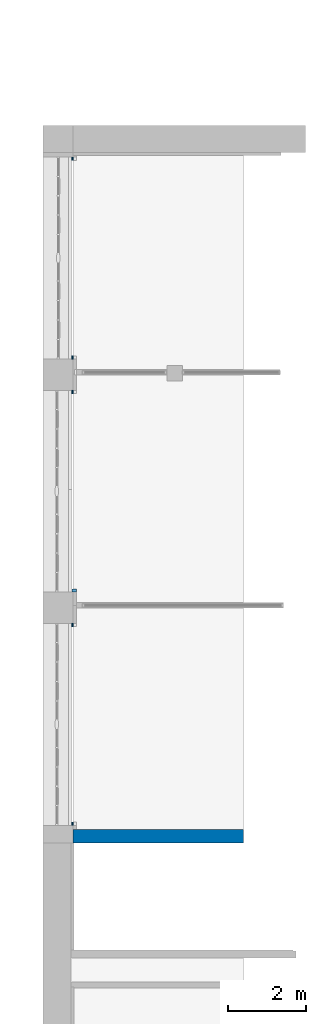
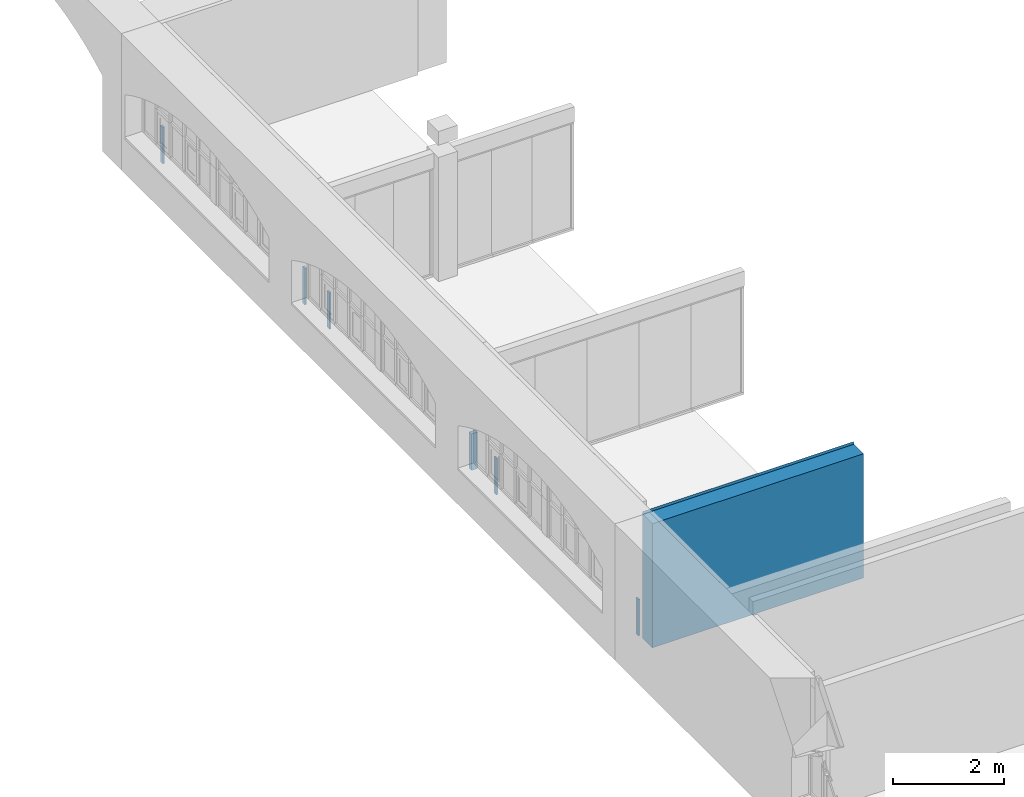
# One storey, part 31 of 32: 7 walls.
"""IFC2X3 building model written with IfcOpenShell, lengths in millimetres."""

from ifc_helpers import new_model, entity, si_unit, converted_unit, derived_unit, direction, frame, frame_2d, origin, place, context, subcontext, project, spatial, rectangle, extrude, faceted_brep, material, layer, layer_set, layer_usage, type_object, element, save


model = new_model("IFC2X3")

# Units and contexts
model_context = context("Model", 3, precision=0.01, world=origin(), true_north=direction((6.123031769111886e-17, 1.0)))
body_context = subcontext(model_context, "Body", "Model", "MODEL_VIEW")
ifc_project = project(units=[si_unit("LENGTHUNIT", "METRE", prefix="MILLI"), si_unit("AREAUNIT", "SQUARE_METRE"), si_unit("VOLUMEUNIT", "CUBIC_METRE"), converted_unit("PLANEANGLEUNIT", "DEGREE", entity("IfcPlaneAngleMeasure", 0.017453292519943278), si_unit("PLANEANGLEUNIT", "RADIAN"), dimensions=[0, 0, 0, 0, 0, 0, 0]), si_unit("MASSUNIT", "GRAM", prefix="KILO"), derived_unit("MASSDENSITYUNIT", [(si_unit("MASSUNIT", "GRAM", prefix="KILO"), 1), (si_unit("LENGTHUNIT", "METRE"), -3)]), derived_unit("IONCONCENTRATIONUNIT", [(si_unit("MASSUNIT", "GRAM", prefix="KILO"), 1), (si_unit("LENGTHUNIT", "METRE"), -3)]), derived_unit("MOMENTOFINERTIAUNIT", [(si_unit("LENGTHUNIT", "METRE"), 4)]), si_unit("TIMEUNIT", "SECOND"), si_unit("FREQUENCYUNIT", "HERTZ"), si_unit("THERMODYNAMICTEMPERATUREUNIT", "DEGREE_CELSIUS"), derived_unit("THERMALTRANSMITTANCEUNIT", [(si_unit("MASSUNIT", "GRAM", prefix="KILO"), 1), (si_unit("THERMODYNAMICTEMPERATUREUNIT", "KELVIN"), -1), (si_unit("TIMEUNIT", "SECOND"), -3)]), derived_unit("THERMALCONDUCTANCEUNIT", [(si_unit("MASSUNIT", "GRAM", prefix="KILO"), 1), (si_unit("THERMODYNAMICTEMPERATUREUNIT", "KELVIN"), -1), (si_unit("TIMEUNIT", "SECOND"), -3), (si_unit("LENGTHUNIT", "METRE"), 1)]), derived_unit("VOLUMETRICFLOWRATEUNIT", [(si_unit("LENGTHUNIT", "METRE", prefix="DECI"), 3), (si_unit("TIMEUNIT", "SECOND"), -1)]), derived_unit("MASSFLOWRATEUNIT", [(si_unit("MASSUNIT", "GRAM", prefix="KILO"), 1), (si_unit("TIMEUNIT", "SECOND"), -1)]), derived_unit("ROTATIONALFREQUENCYUNIT", [(si_unit("TIMEUNIT", "SECOND"), -1)]), si_unit("ELECTRICCURRENTUNIT", "AMPERE"), si_unit("ELECTRICVOLTAGEUNIT", "VOLT"), si_unit("POWERUNIT", "WATT"), si_unit("FORCEUNIT", "NEWTON", prefix="KILO"), si_unit("ILLUMINANCEUNIT", "LUX"), si_unit("LUMINOUSFLUXUNIT", "LUMEN"), si_unit("LUMINOUSINTENSITYUNIT", "CANDELA"), si_unit("ENERGYUNIT", "JOULE"), derived_unit("USERDEFINED", [(si_unit("MASSUNIT", "GRAM", prefix="KILO"), -1), (si_unit("LENGTHUNIT", "METRE"), -2), (si_unit("TIMEUNIT", "SECOND"), 3), (si_unit("LUMINOUSFLUXUNIT", "LUMEN"), 1)]), derived_unit("USERDEFINED", [(si_unit("MASSUNIT", "GRAM", prefix="KILO"), 1), (si_unit("TIMEUNIT", "SECOND"), -3), (si_unit("LENGTHUNIT", "METRE"), 3), (si_unit("ELECTRICCURRENTUNIT", "AMPERE"), -2)]), derived_unit("SOUNDPOWERUNIT", [(si_unit("MASSUNIT", "GRAM", prefix="KILO"), 1), (si_unit("TIMEUNIT", "SECOND"), -3), (si_unit("LENGTHUNIT", "METRE"), 2)]), derived_unit("SOUNDPRESSUREUNIT", [(si_unit("MASSUNIT", "GRAM", prefix="KILO"), 1), (si_unit("LENGTHUNIT", "METRE"), -1), (si_unit("TIMEUNIT", "SECOND"), -2)]), derived_unit("LINEARVELOCITYUNIT", [(si_unit("LENGTHUNIT", "METRE"), 1), (si_unit("TIMEUNIT", "SECOND"), -1)]), si_unit("PRESSUREUNIT", "PASCAL"), derived_unit("USERDEFINED", [(si_unit("MASSUNIT", "GRAM", prefix="KILO"), 1), (si_unit("LENGTHUNIT", "METRE"), -2), (si_unit("TIMEUNIT", "SECOND"), -2)]), derived_unit("LINEARFORCEUNIT", [(si_unit("MASSUNIT", "GRAM", prefix="KILO"), 1), (si_unit("TIMEUNIT", "SECOND"), -2)]), derived_unit("PLANARFORCEUNIT", [(si_unit("MASSUNIT", "GRAM", prefix="KILO"), 1), (si_unit("LENGTHUNIT", "METRE"), -1), (si_unit("TIMEUNIT", "SECOND"), -2)]), derived_unit("SPECIFICHEATCAPACITYUNIT", [(si_unit("THERMODYNAMICTEMPERATUREUNIT", "KELVIN"), -1), (si_unit("LENGTHUNIT", "METRE"), 2), (si_unit("TIMEUNIT", "SECOND"), -2)]), derived_unit("HEATFLUXDENSITYUNIT", [(si_unit("MASSUNIT", "GRAM", prefix="KILO"), 1), (si_unit("TIMEUNIT", "SECOND"), -3)]), derived_unit("HEATINGVALUEUNIT", [(si_unit("LENGTHUNIT", "METRE"), 2), (si_unit("TIMEUNIT", "SECOND"), -2)]), derived_unit("VAPORPERMEABILITYUNIT", [(si_unit("LENGTHUNIT", "METRE"), -1), (si_unit("TIMEUNIT", "SECOND"), 1)]), derived_unit("DYNAMICVISCOSITYUNIT", [(si_unit("MASSUNIT", "GRAM", prefix="KILO"), 1), (si_unit("TIMEUNIT", "SECOND"), -1), (si_unit("LENGTHUNIT", "METRE"), -1)]), derived_unit("THERMALEXPANSIONCOEFFICIENTUNIT", [(si_unit("THERMODYNAMICTEMPERATUREUNIT", "KELVIN"), -1)]), derived_unit("MODULUSOFELASTICITYUNIT", [(si_unit("MASSUNIT", "GRAM", prefix="KILO"), 1), (si_unit("LENGTHUNIT", "METRE"), -1), (si_unit("TIMEUNIT", "SECOND"), -2)]), derived_unit("ISOTHERMALMOISTURECAPACITYUNIT", [(si_unit("MASSUNIT", "GRAM", prefix="KILO"), -1), (si_unit("LENGTHUNIT", "METRE"), 3)]), derived_unit("MOISTUREDIFFUSIVITYUNIT", [(si_unit("TIMEUNIT", "SECOND"), -1), (si_unit("LENGTHUNIT", "METRE"), 2)]), derived_unit("MASSPERLENGTHUNIT", [(si_unit("MASSUNIT", "GRAM", prefix="KILO"), 1), (si_unit("LENGTHUNIT", "METRE"), -1)]), derived_unit("THERMALRESISTANCEUNIT", [(si_unit("MASSUNIT", "GRAM", prefix="KILO"), -1), (si_unit("TIMEUNIT", "SECOND"), 3), (si_unit("THERMODYNAMICTEMPERATUREUNIT", "KELVIN"), 1)]), derived_unit("ACCELERATIONUNIT", [(si_unit("LENGTHUNIT", "METRE"), 1), (si_unit("TIMEUNIT", "SECOND"), -2)]), derived_unit("ANGULARVELOCITYUNIT", [(si_unit("TIMEUNIT", "SECOND"), -1), (si_unit("PLANEANGLEUNIT", "RADIAN"), 1)]), derived_unit("LINEARSTIFFNESSUNIT", [(si_unit("MASSUNIT", "GRAM", prefix="KILO"), 1), (si_unit("TIMEUNIT", "SECOND"), -2)]), derived_unit("WARPINGCONSTANTUNIT", [(si_unit("LENGTHUNIT", "METRE"), 6)]), derived_unit("LINEARMOMENTUNIT", [(si_unit("MASSUNIT", "GRAM", prefix="KILO"), 1), (si_unit("LENGTHUNIT", "METRE"), 1), (si_unit("TIMEUNIT", "SECOND"), -2)]), derived_unit("TORQUEUNIT", [(si_unit("MASSUNIT", "GRAM", prefix="KILO"), 1), (si_unit("LENGTHUNIT", "METRE"), 2), (si_unit("TIMEUNIT", "SECOND"), -2)])], contexts=[model_context])

# Site, building, storey
site_placement = place(None, origin())
site = spatial("IfcSite", under=ifc_project, at=site_placement, Name="Default", CompositionType="ELEMENT")
building_placement = place(site_placement, origin())
building = spatial("IfcBuilding", under=site, at=building_placement, Name="Eesti Rahvusraamatukogu hoone renoveerimise projekteerimistööd", CompositionType="ELEMENT")
storey_placement = place(building_placement, frame((0.0, 0.0, 4950.000000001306)))
storey = spatial("IfcBuildingStorey", under=building, at=storey_placement, Name="2. korrus", CompositionType="ELEMENT", Elevation=4950.000000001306)

# Walls
ifc_material_1 = material(Name="ol. olev materjal")
ifc_layer_1 = layer(ifc_material_1, 350.0)
ifc_layer_set_1 = layer_set([ifc_layer_1], Name="Basic Wall:ol. olev - 350mm")
wall_type_1 = type_object("IfcWallType", Name="Basic Wall:ol. olev - 350mm", PredefinedType="STANDARD", material=ifc_layer_set_1)
wall_1_placement = place(storey_placement, frame((-36000.0, 30480.0, 0.0)))
element("IfcWall", 1, at=wall_1_placement, inside=storey, type_object=wall_type_1, Name="Basic Wall:ol. olev - 350mm", ObjectType="Basic Wall:ol. olev - 350mm", context=body_context, shape_type="Brep", body=[
    faceted_brep([(0.0, -175.0, 0.0), (4390.181568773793, -175.0, 0.0), (4390.181568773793, -175.0, 2730.0), (0.0, -175.0, 2730.0), (4390.181568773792, 175.0, 0.0), (0.0, 175.0, 0.0), (0.0, 175.0, 2787.500000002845), (4390.181568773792, 175.0, 2787.5000000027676), (0.0, 170.0, 2730.0), (4390.181568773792, 170.0, 2730.0)], [[[0, 1, 2, 3]], [[4, 5, 6, 7]], [[1, 0, 5, 4]], [[5, 0, 3, 8, 6]], [[8, 9, 7, 6]], [[9, 8, 3, 2]], [[2, 1, 4, 7, 9]]]),
])
ifc_material_2 = material(Name="EST. Soojustus.PIR_Powerwall Pro")
ifc_layer_2 = layer(ifc_material_2, 30.0)
ifc_material_3 = material(Name="EST. Metall. Alumiinium. Mütsprofiil.")
ifc_layer_3 = layer(ifc_material_3, 42.0)
ifc_material_4 = material(Name="EST. Ehitusplaat. Kipsplaat")
ifc_layer_4 = layer(ifc_material_4, 12.5)
ifc_layer_set_2 = layer_set([ifc_layer_2, ifc_layer_3, ifc_layer_4], Name="Basic Wall:VS-03.1 - soojustus")
ifc_layer_usage_1 = layer_usage(ifc_layer_set_2, "AXIS2", "POSITIVE", -42.25000000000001)
wall_type_2 = type_object("IfcWallType", Name="Basic Wall:VS-03.1 - soojustus", PredefinedType="STANDARD", material=ifc_layer_set_2)
wall_2_placement = place(storey_placement, frame((-36035.4999999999, 30797.69029191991, 0.0)))
element("IfcWallStandardCase", 2, at=wall_2_placement, inside=storey, type_object=wall_type_2, material=ifc_layer_usage_1, Name="Basic Wall:VS-03.1 - soojustus", ObjectType="Basic Wall:VS-03.1 - soojustus", context=body_context, shape_type="SweptSolid", body=[
    extrude(rectangle(XDim=35.50000000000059, YDim=84.49999999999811, at=frame_2d((17.750000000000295, 0.0), x_axis=(-1.0, 0.0))), origin(), (0.0, 0.0, 1.0), 800.0000000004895),
])
ifc_layer_usage_2 = layer_usage(ifc_layer_set_2, "AXIS2", "NEGATIVE", 42.25000000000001)
wall_3_placement = place(storey_placement, frame((-36035.49999999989, 35913.190291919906, 0.0)))
element("IfcWallStandardCase", 3, at=wall_3_placement, inside=storey, type_object=wall_type_2, material=ifc_layer_usage_2, Name="Basic Wall:VS-03.1 - soojustus", ObjectType="Basic Wall:VS-03.1 - soojustus", context=body_context, shape_type="SweptSolid", body=[
    extrude(rectangle(XDim=35.50000000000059, YDim=84.49999999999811, at=frame_2d((17.750000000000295, 0.0), x_axis=(-1.0, 0.0))), origin(), (0.0, 0.0, 1.0), 800.0000000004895),
])
ifc_layer_usage_3 = layer_usage(ifc_layer_set_2, "AXIS2", "POSITIVE", -42.25000000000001)
wall_4_placement = place(storey_placement, frame((-36035.49999999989, 36799.75000000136, 0.0)))
element("IfcWallStandardCase", 4, at=wall_4_placement, inside=storey, type_object=wall_type_2, material=ifc_layer_usage_3, Name="Basic Wall:VS-03.1 - soojustus", ObjectType="Basic Wall:VS-03.1 - soojustus", context=body_context, shape_type="SweptSolid", body=[
    extrude(rectangle(XDim=120.0000000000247, YDim=84.49999999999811, at=frame_2d((60.00000000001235, 0.0), x_axis=(-1.0, 0.0))), origin(), (0.0, 0.0, 1.0), 800.0000000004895),
])
ifc_layer_usage_4 = layer_usage(ifc_layer_set_2, "AXIS2", "NEGATIVE", 42.25000000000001)
wall_5_placement = place(storey_placement, frame((-36035.49999999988, 41915.250000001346, 0.0)))
element("IfcWallStandardCase", 5, at=wall_5_placement, inside=storey, type_object=wall_type_2, material=ifc_layer_usage_4, Name="Basic Wall:VS-03.1 - soojustus", ObjectType="Basic Wall:VS-03.1 - soojustus", context=body_context, shape_type="SweptSolid", body=[
    extrude(rectangle(XDim=35.500000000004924, YDim=84.50000000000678, at=frame_2d((17.750000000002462, 0.0), x_axis=(-1.0, 0.0))), origin(), (0.0, 0.0, 1.0), 800.0000000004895),
])
ifc_layer_usage_5 = layer_usage(ifc_layer_set_2, "AXIS2", "POSITIVE", -42.25000000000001)
wall_6_placement = place(storey_placement, frame((-36035.49999999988, 42801.25000000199, 0.0)))
element("IfcWallStandardCase", 6, at=wall_6_placement, inside=storey, type_object=wall_type_2, material=ifc_layer_usage_5, Name="Basic Wall:VS-03.1 - soojustus", ObjectType="Basic Wall:VS-03.1 - soojustus", context=body_context, shape_type="SweptSolid", body=[
    extrude(rectangle(XDim=35.500000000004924, YDim=84.50000000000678, at=frame_2d((17.750000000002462, 0.0), x_axis=(-1.0, 0.0))), origin(), (0.0, 0.0, 1.0), 800.0000000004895),
])
ifc_layer_usage_6 = layer_usage(ifc_layer_set_2, "AXIS2", "NEGATIVE", 42.25000000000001)
wall_7_placement = place(storey_placement, frame((-36035.499999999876, 47916.750000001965, 0.0)))
element("IfcWallStandardCase", 7, at=wall_7_placement, inside=storey, type_object=wall_type_2, material=ifc_layer_usage_6, Name="Basic Wall:VS-03.1 - soojustus", ObjectType="Basic Wall:VS-03.1 - soojustus", context=body_context, shape_type="SweptSolid", body=[
    extrude(rectangle(XDim=35.500000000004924, YDim=84.50000000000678, at=frame_2d((17.750000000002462, 0.0), x_axis=(-1.0, 0.0))), origin(), (0.0, 0.0, 1.0), 800.0000000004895),
])

save(model, "model.ifc")
